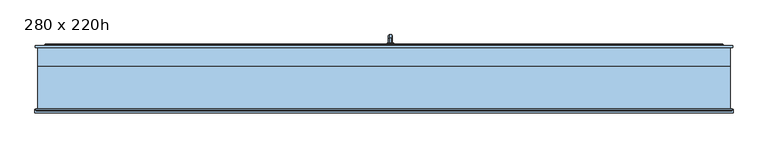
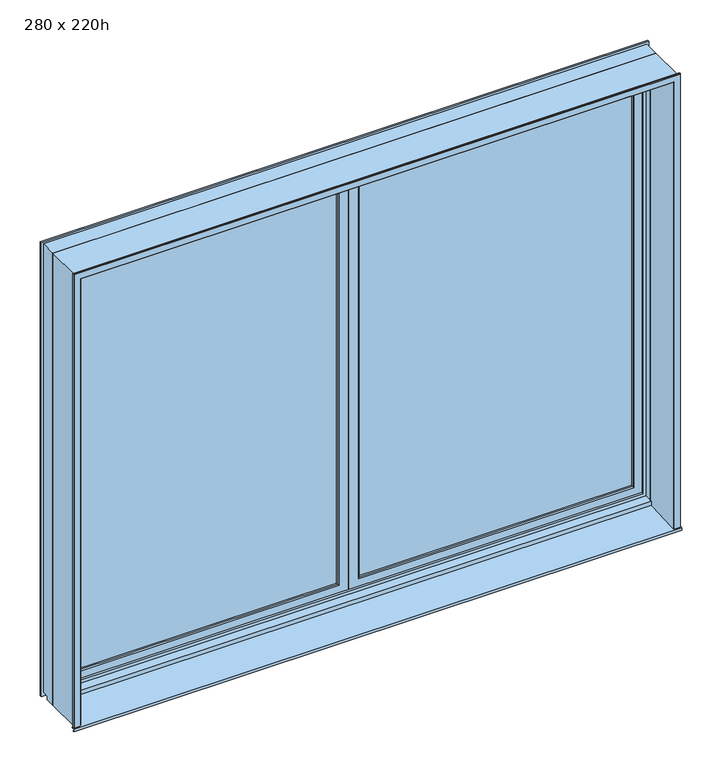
"""IFC4 building model written with IfcOpenShell, lengths in millimetres: window geometry, 2 Vantaux : 280 x 220h."""

from ifc_helpers import new_model, si_unit, frame, origin, place, context, project, spatial, polyline, outline, extrude, faceted_brep, source, transform, mapped, element, save


def window_280_x_220h_84bf4a63(model_context):
    return source(origin(), model_context, "Body", "SolidModel", [
        faceted_brep([(30.9590356, 143.0471229, 1308.0), (20.9232154, 143.0471229, 1308.0), (17.9411255, 143.0471229, 1305.0179101), (17.9411255, 143.0471229, 1294.9820899), (20.9232154, 143.0471229, 1292.0), (30.9590356, 143.0471229, 1292.0), (33.9411255, 143.0471229, 1294.9820899), (33.9411255, 143.0471229, 1305.0179101), (33.9411255, 160.9442146, 1305.0179101), (30.9590356, 162.665925, 1308.0), (33.9411255, 155.1500311, 1294.9820899), (33.9411255, 163.0292127, 1281.334947), (33.9411255, 163.0292127, 1201.9658946), (33.9411255, 173.065033, 1201.9658946), (33.9411255, 173.065033, 1284.0240369), (30.9590356, 153.4283207, 1292.0), (20.9232154, 153.4283207, 1292.0), (17.9411255, 155.1500311, 1294.9820899), (17.9411255, 160.9442146, 1305.0179101), (17.9411255, 173.065033, 1284.0240369), (17.9411255, 173.065033, 1201.9658946), (17.9411255, 163.0292127, 1201.9658946), (17.9411255, 163.0292127, 1281.334947), (20.9232154, 162.665925, 1308.0), (30.9590356, 176.0471229, 1284.8230855), (30.9590356, 160.0471229, 1280.5358984), (20.9232154, 160.0471229, 1280.5358984), (20.9232154, 176.0471229, 1284.8230855), (21.7375155, 174.0812283, 1200.0), (30.1447355, 174.0812283, 1200.0), (31.9752309, 172.2507328, 1200.0), (31.9752309, 163.8435129, 1200.0), (30.1447355, 162.0130174, 1200.0), (21.7375155, 162.0130174, 1200.0), (19.90702, 163.8435129, 1200.0), (19.90702, 172.2507328, 1200.0), (30.9590356, 176.0471229, 1201.9658946), (30.9590356, 160.0471229, 1201.9658946), (20.9232154, 160.0471229, 1201.9658946), (20.9232154, 176.0471229, 1201.9658946)], [[[0, 1, 2, 3, 4, 5, 6, 7]], [[7, 8, 9, 0]], [[6, 10, 11, 12, 13, 14, 8, 7]], [[5, 15, 10, 6]], [[4, 16, 15, 5]], [[3, 17, 16, 4]], [[2, 18, 19, 20, 21, 22, 17, 3]], [[1, 23, 18, 2]], [[0, 9, 23, 1]], [[8, 14, 24, 9]], [[10, 15, 25, 11]], [[16, 26, 25, 15]], [[17, 22, 26, 16]], [[18, 23, 27, 19]], [[9, 24, 27, 23]], [[28, 29, 30, 31, 32, 33, 34, 35]], [[14, 13, 36, 24]], [[25, 37, 12, 11]], [[26, 38, 37, 25]], [[22, 21, 38, 26]], [[27, 39, 20, 19]], [[24, 36, 39, 27]], [[20, 39, 28, 35]], [[35, 34, 21, 20]], [[34, 33, 38, 21]], [[33, 32, 37, 38]], [[32, 31, 12, 37]], [[31, 30, 13, 12]], [[30, 29, 36, 13]], [[39, 36, 29, 28]]]),
        extrude(outline(polyline([(1270.0, 33.9411255), (1275.0, 38.9411255), (1325.0, 38.9411255), (1330.0, 33.9411255), (1330.0, 17.9411255), (1325.0, 12.9411255), (1275.0, 12.9411255), (1270.0, 17.9411255), (1270.0, 33.9411255)])), frame((0.0, 138.0471229, 0.0), z_axis=(0.0, 1.0, 0.0), x_axis=(0.0, 0.0, 1.0)), (0.0, 0.0, 1.0), 5.0),
        faceted_brep([(1320.0, 99.0588745, 2920.0), (1320.0, 99.0588745, 873.5), (1324.0588745, 95.0, 869.4411255), (1324.0588745, 95.0, 2924.0588745), (1368.5, 95.0, 2968.5), (1.5, 95.0, 2968.5), (1.5, 95.0, 825.0), (1368.5, 95.0, 825.0), (45.9411255, 95.0, 2924.0588745), (45.9411255, 95.0, 869.4411255), (50.0, 99.0588745, 873.5), (1320.0, 108.5235614, 2920.0), (1320.0, 108.5235614, 873.5), (50.0, 108.5235614, 873.5), (44.0, 108.5235614, 2926.0), (1326.0, 108.5235614, 2926.0), (1326.0, 108.5235614, 867.5), (44.0, 108.5235614, 867.5), (50.0, 108.5235614, 2920.0), (1326.0, 124.5235614, 2926.0), (1326.0, 124.5235614, 867.5), (44.0, 124.5235614, 867.5), (44.0, 124.5235614, 2926.0), (50.0, 124.5235614, 2920.0), (1320.0, 124.5235614, 2920.0), (1320.0, 124.5235614, 873.5), (50.0, 124.5235614, 873.5), (1320.0, 133.9882484, 2920.0), (1320.0, 133.9882484, 873.5), (50.0, 133.9882484, 873.5), (1324.0588745, 138.0471229, 2924.0588745), (1324.0588745, 138.0471229, 869.4411255), (45.9411255, 138.0471229, 869.4411255), (1.5, 138.0471229, 2968.5), (1368.5, 138.0471229, 2968.5), (1368.5, 138.0471229, 825.0), (1.5, 138.0471229, 825.0), (45.9411255, 138.0471229, 2924.0588745), (1370.0, 96.5, 2970.0), (1370.0, 96.5, 823.5), (1370.0, 136.5471229, 823.5), (1370.0, 136.5471229, 2970.0), (0.0, 96.5, 823.5), (0.0, 136.5471229, 823.5), (50.0, 99.0588745, 2920.0), (50.0, 133.9882484, 2920.0), (0.0, 96.5, 2970.0), (0.0, 136.5471229, 2970.0)], [[[0, 1, 2, 3]], [[4, 5, 6, 7], [8, 3, 2, 9]], [[1, 10, 9, 2]], [[11, 12, 1, 0]], [[12, 13, 10, 1]], [[14, 15, 16, 17], [11, 18, 13, 12]], [[19, 20, 16, 15]], [[20, 21, 17, 16]], [[19, 22, 21, 20], [23, 24, 25, 26]], [[27, 28, 25, 24]], [[28, 29, 26, 25]], [[30, 31, 28, 27]], [[31, 32, 29, 28]], [[33, 34, 35, 36], [30, 37, 32, 31]], [[38, 39, 40, 41]], [[41, 40, 35, 34]], [[39, 42, 43, 40]], [[4, 7, 39, 38]], [[10, 44, 8, 9]], [[13, 18, 44, 10]], [[21, 22, 14, 17]], [[29, 45, 23, 26]], [[32, 37, 45, 29]], [[40, 43, 36, 35]], [[42, 46, 47, 43]], [[7, 6, 42, 39]], [[6, 5, 46, 42]], [[43, 47, 33, 36]], [[44, 0, 3, 8]], [[18, 11, 0, 44]], [[22, 19, 15, 14]], [[45, 27, 24, 23]], [[37, 30, 27, 45]], [[46, 38, 41, 47]], [[47, 41, 34, 33]], [[5, 4, 38, 46]]]),
        faceted_brep([(-1375.6755267, 45.0, 813.8687943), (-1375.6755267, 50.0, 814.2950679), (-1375.6755267, 50.0, 800.0), (-1375.6755267, 47.0, 800.0), (-1375.6755267, 47.0, 795.0), (-1375.6755267, 45.0, 795.0), (1375.6755267, 45.0, 795.0), (1375.6755267, 45.0, 813.8687943), (1375.6755267, 47.0, 795.0), (1375.6755267, 47.0, 800.0), (-1375.0, 50.6755267, 800.0), (-1375.0, 85.0, 800.0), (-1360.0, 85.0, 800.0), (-1360.0, 95.0, 800.0), (-1400.0, 95.0, 800.0), (-1400.0, 125.0, 800.0), (1400.0, 125.0, 800.0), (1400.0, 95.0, 800.0), (1360.0, 95.0, 800.0), (1360.0, 85.0, 800.0), (1375.0, 85.0, 800.0), (1375.0, 50.6755267, 800.0), (1375.6755267, 50.0, 800.0), (-1375.6755267, 50.0, 783.5), (-1375.6755267, 50.0, 2975.6755267), (1375.6755267, 50.0, 2975.6755267), (1375.6755267, 50.0, 814.2950679), (1375.6755267, 50.0, 783.5), (1400.0, 50.0, 783.5), (1400.0, 50.0, 3000.0), (-1400.0, 50.0, 3000.0), (-1400.0, 50.0, 783.5), (1375.0, 50.6755267, 814.3526597), (1375.0, 85.0, 817.278983), (-1375.0, 85.0, 817.278983), (-1375.0, 50.6755267, 814.3526597), (-1410.0, 125.0, 783.5), (1410.0, 125.0, 783.5), (1410.0, 125.0, 3010.0), (-1410.0, 125.0, 3010.0), (-1400.0, 125.0, 3000.0), (1400.0, 125.0, 3000.0), (-1410.0, 133.0, 3010.0), (-1410.0, 133.0, 783.5), (1410.0, 133.0, 783.5), (1410.0, 133.0, 3010.0), (-1400.0, 95.0, 783.5), (-1360.0, 95.0, 783.5), (-1360.0, 85.0, 783.5), (-1375.0, 85.0, 783.5), (-1375.0, 50.6755267, 783.5), (1375.0, 50.6755267, 783.5), (1375.0, 85.0, 783.5), (1360.0, 85.0, 783.5), (1360.0, 95.0, 783.5), (1400.0, 95.0, 783.5), (-1370.0, 133.0, 2970.0), (-1370.0, 133.0, 823.5), (1370.0, 133.0, 823.5), (1370.0, 133.0, 2970.0), (1370.0, 95.0, 823.5), (1370.0, 95.0, 2970.0), (-1370.0, 95.0, 823.5), (-1370.0, 95.0, 2970.0), (-1360.0, 95.0, 2960.0), (-1360.0, 95.0, 833.5), (1360.0, 95.0, 833.5), (1360.0, 95.0, 2960.0), (1360.0, 85.0, 833.5), (1360.0, 85.0, 2960.0), (-1360.0, 85.0, 833.5), (-1360.0, 85.0, 2960.0), (-1375.0, 85.0, 2975.0), (1375.0, 85.0, 2975.0), (-1375.0, 50.6755267, 2975.0), (1375.0, 50.6755267, 2975.0)], [[[0, 1, 2, 3, 4, 5]], [[5, 6, 7, 0]], [[4, 8, 6, 5]], [[3, 9, 8, 4]], [[3, 2, 10, 11, 12, 13, 14, 15, 16, 17, 18, 19, 20, 21, 22, 9]], [[23, 2, 1, 24, 25, 26, 22, 27, 28, 29, 30, 31]], [[7, 26, 32, 33, 34, 35, 1, 0]], [[9, 22, 26, 7, 6, 8]], [[36, 37, 38, 39], [16, 15, 40, 41]], [[36, 39, 42, 43]], [[37, 44, 45, 38]], [[23, 31, 46, 47, 48, 49, 50]], [[43, 44, 37, 36]], [[27, 51, 52, 53, 54, 55, 28]], [[28, 55, 17, 16, 41, 29]], [[40, 15, 14, 46, 31, 30]], [[44, 43, 42, 45], [56, 57, 58, 59]], [[59, 58, 60, 61]], [[57, 62, 60, 58]], [[63, 62, 57, 56]], [[47, 46, 14, 13]], [[55, 54, 18, 17]], [[61, 60, 62, 63], [64, 65, 66, 67]], [[67, 66, 68, 69]], [[53, 19, 18, 54]], [[65, 70, 68, 66]], [[47, 13, 12, 48]], [[71, 70, 65, 64]], [[48, 12, 11, 49]], [[72, 34, 33, 73], [69, 68, 70, 71]], [[52, 20, 19, 53]], [[49, 11, 10, 50]], [[74, 35, 34, 72]], [[73, 33, 32, 75]], [[51, 21, 20, 52]], [[24, 1, 35, 74]], [[50, 10, 2, 23]], [[27, 22, 21, 51]], [[75, 32, 26, 25]], [[38, 45, 42, 39]], [[30, 29, 41, 40]], [[63, 56, 59, 61]], [[71, 64, 67, 69]], [[72, 73, 75, 74]], [[24, 74, 75, 25]]]),
        extrude(outline(polyline([(-1326.0, 108.5), (-1326.0, 124.5), (-44.0, 124.5), (-44.0, 108.5), (-1326.0, 108.5)])), frame((0.0, 0.0, 867.5), z_axis=(0.0, 0.0, 1.0), x_axis=(1.0, 0.0, 0.0)), (0.0, 0.0, 1.0), 2058.5),
        extrude(outline(polyline([(44.0, 108.5), (44.0, 124.5), (1326.0, 124.5), (1326.0, 108.5), (44.0, 108.5)])), frame((0.0, 0.0, 867.5), z_axis=(0.0, 0.0, 1.0), x_axis=(1.0, 0.0, 0.0)), (0.0, 0.0, 1.0), 2058.5),
        faceted_brep([(0.0, 96.5, 2970.0), (0.0, 96.5, 823.5), (0.0, 136.5471229, 823.5), (0.0, 136.5471229, 2970.0), (-1.5, 138.0471229, 825.0), (-1.5, 138.0471229, 2968.5), (-1370.0, 96.5, 823.5), (-1370.0, 136.5471229, 823.5), (-1.5, 95.0, 2968.5), (-1.5, 95.0, 825.0), (-45.9411255, 138.0471229, 2924.0588745), (-45.9411255, 138.0471229, 869.4411255), (-50.0, 133.9882484, 873.5), (-50.0, 133.9882484, 2920.0), (-50.0, 124.5235614, 873.5), (-50.0, 124.5235614, 2920.0), (-1324.0588745, 138.0471229, 869.4411255), (-1320.0, 133.9882484, 873.5), (-1368.5, 138.0471229, 825.0), (-1368.5, 138.0471229, 2968.5), (-1324.0588745, 138.0471229, 2924.0588745), (-44.0, 124.5235614, 867.5), (-44.0, 124.5235614, 2926.0), (-1326.0, 124.5235614, 2926.0), (-1326.0, 124.5235614, 867.5), (-1320.0, 124.5235614, 873.5), (-1320.0, 124.5235614, 2920.0), (-44.0, 108.5235614, 867.5), (-44.0, 108.5235614, 2926.0), (-1326.0, 108.5235614, 867.5), (-1326.0, 108.5235614, 2926.0), (-50.0, 108.5235614, 873.5), (-50.0, 108.5235614, 2920.0), (-1320.0, 108.5235614, 2920.0), (-1320.0, 108.5235614, 873.5), (-50.0, 99.0588745, 873.5), (-50.0, 99.0588745, 2920.0), (-45.9411255, 95.0, 869.4411255), (-45.9411255, 95.0, 2924.0588745), (-1320.0, 99.0588745, 873.5), (-1368.5, 95.0, 2968.5), (-1368.5, 95.0, 825.0), (-1324.0588745, 95.0, 869.4411255), (-1324.0588745, 95.0, 2924.0588745), (-1370.0, 96.5, 2970.0), (-1370.0, 136.5471229, 2970.0), (-1320.0, 133.9882484, 2920.0), (-1320.0, 99.0588745, 2920.0)], [[[0, 1, 2, 3]], [[3, 2, 4, 5]], [[1, 6, 7, 2]], [[8, 9, 1, 0]], [[10, 11, 12, 13]], [[13, 12, 14, 15]], [[11, 16, 17, 12]], [[5, 4, 18, 19], [11, 10, 20, 16]], [[21, 22, 23, 24], [15, 14, 25, 26]], [[12, 17, 25, 14]], [[22, 21, 27, 28]], [[28, 27, 29, 30], [31, 32, 33, 34]], [[21, 24, 29, 27]], [[32, 31, 35, 36]], [[36, 35, 37, 38]], [[31, 34, 39, 35]], [[9, 8, 40, 41], [38, 37, 42, 43]], [[35, 39, 42, 37]], [[2, 7, 18, 4]], [[6, 44, 45, 7]], [[9, 41, 6, 1]], [[16, 20, 46, 17]], [[17, 46, 26, 25]], [[24, 23, 30, 29]], [[34, 33, 47, 39]], [[39, 47, 43, 42]], [[7, 45, 19, 18]], [[41, 40, 44, 6]], [[44, 0, 3, 45]], [[20, 10, 13, 46]], [[46, 13, 15, 26]], [[23, 22, 28, 30]], [[33, 32, 36, 47]], [[47, 36, 38, 43]], [[40, 8, 0, 44]], [[45, 3, 5, 19]]]),
        faceted_brep([(1410.6755267, -125.0, 784.2945446), (1410.6755267, -140.0, 783.5020918), (1410.6755267, -140.0, 771.0), (1410.6755267, -133.5, 771.0), (1410.6755267, -133.5, 772.5), (1410.6755267, -138.5, 772.5), (1410.6755267, -138.5, 782.0792453), (1410.6755267, -125.0, 782.7924528), (1375.6755267, -125.0, 782.7924528), (1375.6755267, -125.0, 783.5), (1400.0, -125.0, 783.5), (1400.0, -125.0, 3000.0), (-1400.0, -125.0, 3000.0), (-1400.0, -125.0, 783.5), (-1375.6755267, -125.0, 783.5), (-1375.6755267, -125.0, 782.7924528), (-1410.6755267, -125.0, 782.7924528), (-1410.6755267, -125.0, 784.2945446), (-1408.0, -125.0, 784.2945446), (-1408.0, -125.0, 3008.0), (1408.0, -125.0, 3008.0), (1408.0, -125.0, 784.2945446), (-1410.6755267, -138.5, 782.0792453), (-1375.6755267, -111.6071429, 783.5), (-1375.6755267, 50.0, 792.0377358), (-1375.6755267, 60.0, 792.5660377), (1375.6755267, 60.0, 792.5660377), (1375.6755267, 50.0, 792.0377358), (1375.6755267, -111.6071429, 783.5), (-1410.6755267, -138.5, 772.5), (-1410.6755267, -133.5, 772.5), (-1410.6755267, -133.5, 771.0), (-1410.6755267, -140.0, 771.0), (-1410.6755267, -140.0, 783.5020918), (1408.0, -131.1421356, 783.9700545), (1406.1421356, -133.0, 783.8719031), (1378.8578644, -133.0, 783.8719031), (1375.6755267, -129.8176624, 784.0400266), (1375.6755267, -125.0, 784.2945446), (1375.6755267, 50.0, 793.5398277), (1375.6755267, 58.5, 793.9888843), (-1375.6755267, 58.5, 793.9888843), (-1375.6755267, 50.0, 793.5398277), (-1375.6755267, -125.0, 784.2945446), (-1375.6755267, -129.8176624, 784.0400266), (-1378.8578644, -133.0, 783.8719031), (-1406.1421356, -133.0, 783.8719031), (-1408.0, -131.1421356, 783.9700545), (1408.0, -131.1421356, 3008.0), (-1408.0, -131.1421356, 3008.0), (-1375.6755267, 58.5, 797.4781943), (-1375.6755267, 60.0, 797.4781943), (-1375.6755267, 50.0, 783.5), (-1400.0, 50.0, 783.5), (-1400.0, 50.0, 3000.0), (1400.0, 50.0, 3000.0), (1400.0, 50.0, 783.5), (1375.6755267, 50.0, 783.5), (1375.6755267, 60.0, 797.4781943), (1375.6755267, 58.5, 797.4781943), (1375.6755267, 50.0, 2975.6755267), (1375.6755267, -129.8176624, 2975.6755267), (-1375.6755267, -129.8176624, 2975.6755267), (-1375.6755267, 50.0, 2975.6755267), (-1406.1421356, -133.0, 3006.1421356), (-1378.8578644, -133.0, 2978.8578644), (1378.8578644, -133.0, 2978.8578644), (1406.1421356, -133.0, 3006.1421356)], [[[0, 1, 2, 3, 4, 5, 6, 7]], [[7, 8, 9, 10, 11, 12, 13, 14, 15, 16, 17, 18, 19, 20, 21, 0]], [[6, 22, 16, 15, 23, 24, 25, 26, 27, 28, 8, 7]], [[5, 29, 22, 6]], [[4, 30, 29, 5]], [[3, 31, 30, 4]], [[2, 32, 31, 3]], [[1, 33, 32, 2]], [[0, 21, 34, 35, 36, 37, 38, 39, 40, 41, 42, 43, 44, 45, 46, 47, 18, 17, 33, 1]], [[48, 34, 21, 20]], [[19, 18, 47, 49]], [[33, 17, 16, 22, 29, 30, 31, 32]], [[25, 24, 42, 41, 50, 51]], [[14, 23, 15]], [[52, 23, 14, 13, 53]], [[12, 54, 53, 13]], [[55, 11, 10, 56]], [[56, 10, 9, 28, 57]], [[8, 28, 9]], [[40, 39, 27, 26, 58, 59]], [[57, 28, 27]], [[60, 39, 38, 37, 61]], [[51, 58, 26, 25]], [[62, 44, 43, 42, 63]], [[52, 24, 23]], [[49, 47, 46, 64]], [[64, 46, 45, 65, 66, 36, 35, 67]], [[65, 45, 44, 62]], [[41, 40, 59, 50]], [[61, 37, 36, 66]], [[67, 35, 34, 48]], [[50, 59, 58, 51]], [[53, 54, 55, 56, 57, 27, 39, 60, 63, 42, 24, 52]], [[19, 49, 48, 20]], [[54, 12, 11, 55]], [[60, 61, 62, 63]], [[64, 67, 48, 49]], [[65, 62, 61, 66]]]),
        extrude(outline(polyline([(60.0, 800.0), (95.0, 800.0), (95.0, 765.0), (-85.0, 765.0), (-85.0, 784.9056604), (60.0, 792.5660377), (60.0, 800.0)])), frame((-1375.6755267, 0.0, 0.0), z_axis=(1.0, 0.0, 0.0), x_axis=(0.0, 1.0, 0.0)), (0.0, 0.0, 1.0), 2751.3510535),
    ])


if __name__ == "__main__":
    model = new_model("IFC4")
    model_context = context("Model", 3, world=origin())
    ifc_project = project(units=[si_unit("LENGTHUNIT", "METRE", prefix="MILLI")], contexts=[model_context])
    site = spatial("IfcSite", under=ifc_project)
    building = spatial("IfcBuilding", under=site)
    placement = place(None, origin())
    window_280_x_220h_shape = window_280_x_220h_84bf4a63(model_context)
    element("IfcWindow", 1, ObjectType="2 Vantaux : 280 x 220h", at=placement, inside=building, context=model_context, shape_type="MappedRepresentation", body=[
        mapped(window_280_x_220h_shape, transform((0.0, 0.0, 0.0), x_axis=(1.0, 0.0, 0.0), y_axis=(0.0, 1.0, 0.0), z_axis=(0.0, 0.0, 1.0))),
    ])
    save(model, "model.ifc")
